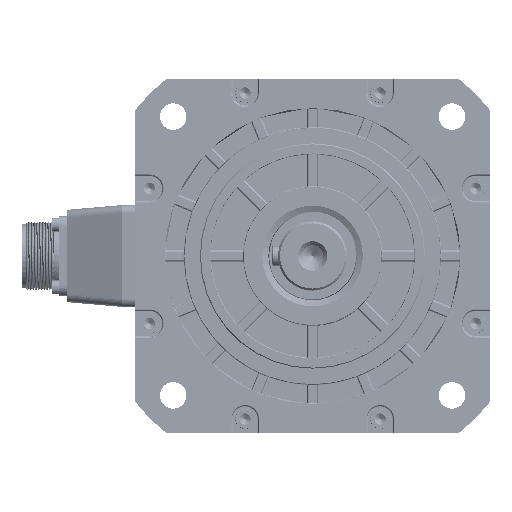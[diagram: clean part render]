
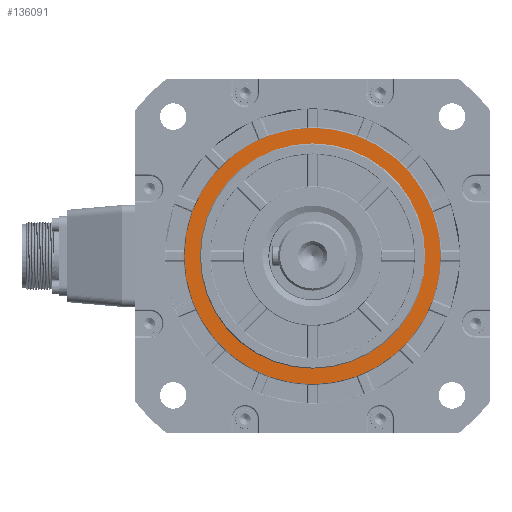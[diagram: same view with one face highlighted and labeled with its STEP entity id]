
A CAD part, left-side view. The second image highlights one B-rep face of the part: STEP entity #136091.
In plain terms, the highlighted planar face has unit normal (-1, 0, 0).
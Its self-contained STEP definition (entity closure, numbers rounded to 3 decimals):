
#116031=CARTESIAN_POINT('',(3.2,0.,0.));
#116032=DIRECTION('',(-1.,0.,0.));
#116033=DIRECTION('',(0.,1.,0.));
#116034=AXIS2_PLACEMENT_3D('',#116031,#116032,#116033);
#116036=CARTESIAN_POINT('',(3.2,0.,0.));
#116037=DIRECTION('',(1.,0.,0.));
#116038=DIRECTION('',(0.,1.,0.));
#116039=AXIS2_PLACEMENT_3D('',#116036,#116037,#116038);
#116081=CARTESIAN_POINT('',(3.2,0.,0.));
#116082=DIRECTION('',(-1.,0.,0.));
#116083=DIRECTION('',(0.,0.,-1.));
#116084=AXIS2_PLACEMENT_3D('',#116081,#116082,#116083);
#116086=CARTESIAN_POINT('',(3.2,0.,0.));
#116087=DIRECTION('',(-1.,0.,0.));
#116088=DIRECTION('',(0.,0.,1.));
#116089=AXIS2_PLACEMENT_3D('',#116086,#116087,#116088);
#124713=CARTESIAN_POINT('',(3.2,57.15,0.));
#124714=CARTESIAN_POINT('',(3.2,-57.15,0.));
#124715=VERTEX_POINT('',#124713);
#124716=VERTEX_POINT('',#124714);
#124933=CARTESIAN_POINT('',(3.2,0.,-65.));
#124934=CARTESIAN_POINT('',(3.2,0.,65.));
#124935=VERTEX_POINT('',#124933);
#124936=VERTEX_POINT('',#124934);
#136074=CARTESIAN_POINT('',(3.2,0.,0.));
#136075=DIRECTION('',(1.,0.,0.));
#136076=DIRECTION('',(0.,-1.,0.));
#136077=AXIS2_PLACEMENT_3D('',#136074,#136075,#136076);
#136078=PLANE('',#136077);
#136080=ORIENTED_EDGE('',*,*,#136079,.F.);
#136082=ORIENTED_EDGE('',*,*,#136081,.F.);
#136083=EDGE_LOOP('',(#136080,#136082));
#136084=FACE_OUTER_BOUND('',#136083,.F.);
#136086=ORIENTED_EDGE('',*,*,#136085,.T.);
#136088=ORIENTED_EDGE('',*,*,#136087,.F.);
#136089=EDGE_LOOP('',(#136086,#136088));
#136090=FACE_BOUND('',#136089,.F.);
#136091=ADVANCED_FACE('',(#136084,#136090),#136078,.F.);
#116035=CIRCLE('',#116034,57.15);
#116040=CIRCLE('',#116039,57.15);
#116085=CIRCLE('',#116084,65.);
#116090=CIRCLE('',#116089,65.);
#136079=EDGE_CURVE('',#124935,#124936,#116085,.T.);
#136081=EDGE_CURVE('',#124936,#124935,#116090,.T.);
#136085=EDGE_CURVE('',#124715,#124716,#116035,.T.);
#136087=EDGE_CURVE('',#124715,#124716,#116040,.T.);
